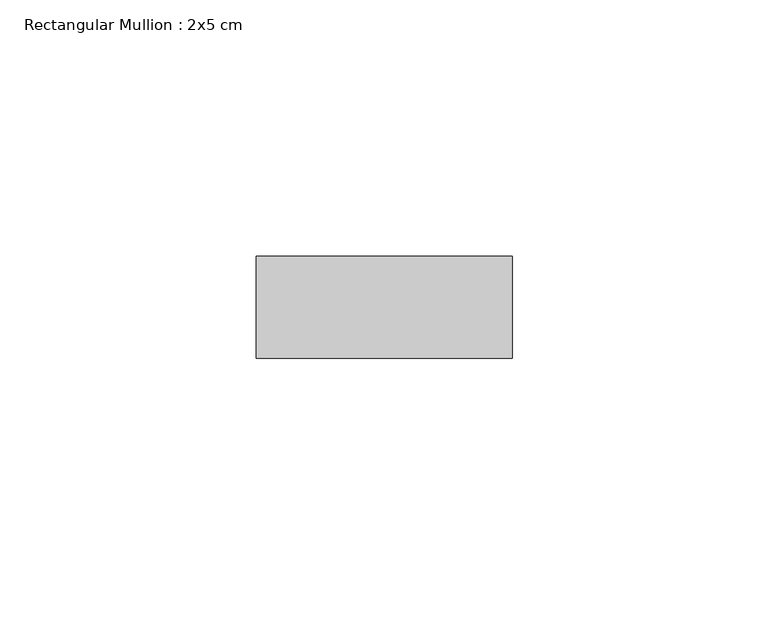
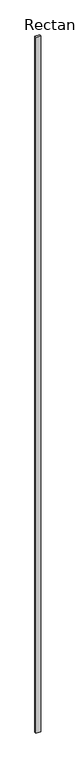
"""IFC4 building model written with IfcOpenShell, lengths in millimetres: member geometry, Rectangular Mullion : 2x5 cm."""

import ifcopenshell
import ifcopenshell.guid

model = None  # the IFC model being written
_history = None  # IfcOwnerHistory: only IFC2X3 demands one
_inside = {}  # id of a spatial element -> (the spatial element, [elements in it])
_under = {}  # id of a project, library or spatial element -> (it, [spatial elements below it])
_declared = {}  # id of a project -> (the project, [libraries it declares])
_typed = {}  # id of a type object -> (the type object, [elements of that type])
_made_of = {}  # id of a material, layer set ... -> (it, [elements and type objects made of it])


def new_model(schema):
    """Start an empty IFC model of exactly this schema.

    Asked for "IFC4X3", IfcOpenShell would pick the latest addendum, in which some entities
    have other attributes; the version numbers below select the first issue.
    IFC2X3 requires an IfcOwnerHistory on every rooted entity: one is made here for all.
    """
    global model, _history
    if schema == "IFC4X3":
        model = ifcopenshell.file(schema_version=(4, 3, 0, 0))
    else:
        model = ifcopenshell.file(schema=schema)
    _inside.clear()
    _under.clear()
    _declared.clear()
    _typed.clear()
    _made_of.clear()
    _history = None
    if model.schema == "IFC2X3":
        org = make("IfcOrganization", Name="unknown")
        user = make(
            "IfcPersonAndOrganization",
            ThePerson=make("IfcPerson", FamilyName="unknown"),
            TheOrganization=org,
        )
        app = make(
            "IfcApplication",
            ApplicationDeveloper=org,
            Version="unknown",
            ApplicationFullName="unknown",
            ApplicationIdentifier="unknown",
        )
        _history = make(
            "IfcOwnerHistory",
            OwningUser=user,
            OwningApplication=app,
            ChangeAction="ADDED",
            CreationDate=0,
        )
    return model


def make(cls, **values):
    """One entity of the class cls with the attributes given. An attribute that is None is left unset."""
    return model.create_entity(
        cls, **{name: value for name, value in values.items() if value is not None}
    )


def rooted(cls, **values):
    """An entity with a GlobalId (a new one), such as an element, a storey or a relation."""
    return make(cls, GlobalId=ifcopenshell.guid.new(), OwnerHistory=_history, **values)


def si_unit(unit_type, name, prefix=None):
    """IfcSIUnit, for example si_unit("LENGTHUNIT", "METRE", prefix="MILLI")."""
    return make("IfcSIUnit", UnitType=unit_type, Prefix=prefix, Name=name)


def assignment(units):
    """IfcUnitAssignment: the units of a project."""
    return None if units is None else make("IfcUnitAssignment", Units=units)


def point(xyz):
    """IfcCartesianPoint."""
    return None if xyz is None else make("IfcCartesianPoint", Coordinates=xyz)


def direction(xyz):
    """IfcDirection."""
    return None if xyz is None else make("IfcDirection", DirectionRatios=xyz)


def frame(location, z_axis=None, x_axis=None):
    """IfcAxis2Placement3D, a coordinate frame: its origin and axes. An axis left out is left unset."""
    return make(
        "IfcAxis2Placement3D",
        Location=point(location),
        Axis=direction(z_axis),
        RefDirection=direction(x_axis),
    )


def origin():
    """The frame at (0, 0, 0) with its axes left unset."""
    return frame((0.0, 0.0, 0.0))


def place(relative_to, where):
    """IfcLocalPlacement: puts the frame where relative to a parent placement (None: the world)."""
    return make(
        "IfcLocalPlacement", PlacementRelTo=relative_to, RelativePlacement=where
    )


def context(
    kind, dimensions, precision=None, world=None, true_north=None, identifier=None
):
    """IfcGeometricRepresentationContext, for example the 3D "Model" context."""
    return make(
        "IfcGeometricRepresentationContext",
        ContextIdentifier=identifier,
        ContextType=kind,
        CoordinateSpaceDimension=dimensions,
        Precision=precision,
        WorldCoordinateSystem=world,
        TrueNorth=true_north,
    )


def project(units=None, contexts=None):
    """IfcProject with its units and contexts."""
    return rooted(
        "IfcProject",
        Name="project",
        RepresentationContexts=contexts,
        UnitsInContext=assignment(units),
    )


def spatial(cls, under=None, at=None, **own):
    """A site, building, storey or space (cls), placed at a placement, below another one or the project."""
    s = rooted(cls, ObjectPlacement=at, **own)
    if under is not None:
        _under.setdefault(under.id(), (under, []))[1].append(s)
    return s


def polyline(points):
    """IfcPolyline through the points."""
    return make("IfcPolyline", Points=[point(p) for p in points])


def outline(outer, holes=None, kind="AREA"):
    """IfcArbitraryClosedProfileDef: a profile drawn as a closed curve; with holes, ...WithVoids."""
    if holes is None:
        return make("IfcArbitraryClosedProfileDef", ProfileType=kind, OuterCurve=outer)
    return make(
        "IfcArbitraryProfileDefWithVoids",
        ProfileType=kind,
        OuterCurve=outer,
        InnerCurves=holes,
    )


def extrude(swept, where, along, depth):
    """IfcExtrudedAreaSolid: the profile swept, set in the frame where, extruded along a direction by depth."""
    return make(
        "IfcExtrudedAreaSolid",
        SweptArea=swept,
        Position=where,
        ExtrudedDirection=direction(along),
        Depth=depth,
    )


def shape(context_of_items, identifier, shape_type, items):
    """IfcShapeRepresentation: the items that make up one representation, for example the "Body"."""
    return make(
        "IfcShapeRepresentation",
        ContextOfItems=context_of_items,
        RepresentationIdentifier=identifier,
        RepresentationType=shape_type,
        Items=items,
    )


def source(mapping_origin, context_of_items, identifier, shape_type, items):
    """IfcRepresentationMap: a shape defined once, which mapped items show again and again."""
    return make(
        "IfcRepresentationMap",
        MappingOrigin=mapping_origin,
        MappedRepresentation=shape(context_of_items, identifier, shape_type, items),
    )


def transform(
    local_origin,
    x_axis=None,
    y_axis=None,
    z_axis=None,
    scale=None,
    scale2=None,
    scale3=None,
    uniform=True,
):
    """IfcCartesianTransformationOperator3D, or its non-uniform kind. x_axis, y_axis, z_axis: its Axis1, 2, 3."""
    if uniform:
        return make(
            "IfcCartesianTransformationOperator3D",
            Axis1=direction(x_axis),
            Axis2=direction(y_axis),
            LocalOrigin=point(local_origin),
            Scale=scale,
            Axis3=direction(z_axis),
        )
    return make(
        "IfcCartesianTransformationOperator3DnonUniform",
        Axis1=direction(x_axis),
        Axis2=direction(y_axis),
        LocalOrigin=point(local_origin),
        Scale=scale,
        Axis3=direction(z_axis),
        Scale2=scale2,
        Scale3=scale3,
    )


def mapped(mapping_source, mapping_target):
    """IfcMappedItem: shows the shape of a source again, moved by a transform."""
    return make(
        "IfcMappedItem", MappingSource=mapping_source, MappingTarget=mapping_target
    )


def made_of(thing, what):
    """Note that an element or type object is made of a material, layer set ...; save() writes the relation."""
    if what is not None:
        _made_of.setdefault(what.id(), (what, []))[1].append(thing)
    return thing


def element(
    cls,
    number,
    at=None,
    inside=None,
    cuts=None,
    type_object=None,
    material=None,
    context=None,
    identifier="Body",
    shape_type=None,
    held_by="IfcProductDefinitionShape",
    body=None,
    shapes=None,
    **own,
):
    """One element of the class cls, such as IfcWall. Its Tag is "e" and its number.

    at: its placement. inside: the storey or other place that contains it. cuts: it is an
    opening in that element (IfcRelVoidsElement). A single representation is given by context,
    identifier, shape_type and body (its items); several are given by shapes. held_by: the class
    of the entity that holds the representations. save() writes the other relations.
    """
    e = rooted(cls, Tag="e%d" % number, ObjectPlacement=at, **own)
    if body is not None:
        shapes = [shape(context, identifier, shape_type, body)]
    if shapes is not None:
        e.Representation = make(held_by, Representations=shapes)
    if inside is not None:
        _inside.setdefault(inside.id(), (inside, []))[1].append(e)
    if cuts is not None:
        rooted(
            "IfcRelVoidsElement", RelatingBuildingElement=cuts, RelatedOpeningElement=e
        )
    if type_object is not None:
        _typed.setdefault(type_object.id(), (type_object, []))[1].append(e)
    return made_of(e, material)


def aggregate(whole, parts):
    """IfcRelAggregates: a whole, such as a stair, and the parts it consists of."""
    return rooted("IfcRelAggregates", RelatingObject=whole, RelatedObjects=parts)


def save(model, path):
    """Write the relations noted so far, then the file.

    IfcRelAggregates (storeys below a building ...), IfcRelContainedInSpatialStructure (elements
    in a storey), IfcRelDefinesByType, IfcRelAssociatesMaterial and IfcRelDeclares: one each for
    every whole, place, type object, material and project.
    """
    for whole, parts in _under.values():
        aggregate(whole, parts)
    for where, things in _inside.values():
        rooted(
            "IfcRelContainedInSpatialStructure",
            RelatedElements=things,
            RelatingStructure=where,
        )
    for kind, things in _typed.values():
        rooted("IfcRelDefinesByType", RelatedObjects=things, RelatingType=kind)
    for what, things in _made_of.values():
        rooted("IfcRelAssociatesMaterial", RelatedObjects=things, RelatingMaterial=what)
    for by, libraries in _declared.values():
        rooted("IfcRelDeclares", RelatingContext=by, RelatedDefinitions=libraries)
    model.write(path)


def rectangular_mullion_2x5_cm_147c674f(model_context):
    return source(origin(), model_context, "Body", "SweptSolid", [
        extrude(outline(polyline([(50.0, 20.0), (50.0, 0.0), (0.0, 0.0), (0.0, 20.0), (50.0, 20.0)])), frame((0.0, 0.0, -7946.9817651), z_axis=(0.0, 0.0, 1.0), x_axis=(1.0, 0.0, 0.0)), (0.0, 0.0, 1.0), 7946.9817651),
    ])


if __name__ == "__main__":
    model = new_model("IFC4")
    model_context = context("Model", 3, world=origin())
    ifc_project = project(units=[si_unit("LENGTHUNIT", "METRE", prefix="MILLI")], contexts=[model_context])
    site = spatial("IfcSite", under=ifc_project)
    building = spatial("IfcBuilding", under=site)
    placement = place(None, origin())
    rectangular_mullion_2x5_cm_shape = rectangular_mullion_2x5_cm_147c674f(model_context)
    element("IfcMember", 1, ObjectType="Rectangular Mullion : 2x5 cm", at=placement, inside=building, context=model_context, shape_type="MappedRepresentation", body=[
        mapped(rectangular_mullion_2x5_cm_shape, transform((0.0, 0.0, 0.0), x_axis=(1.0, 0.0, 0.0), y_axis=(0.0, 1.0, 0.0), z_axis=(0.0, 0.0, 1.0))),
    ])
    save(model, "model.ifc")
